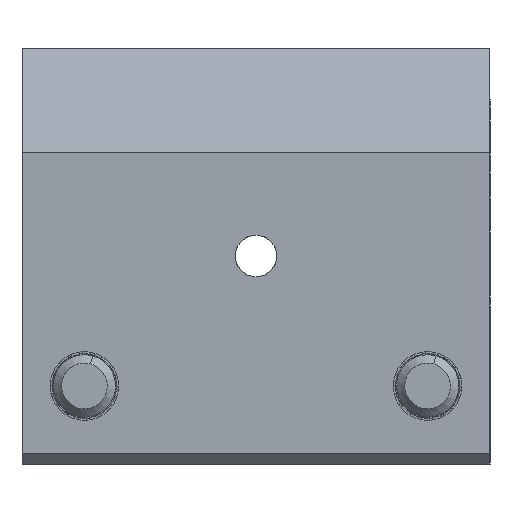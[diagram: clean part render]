
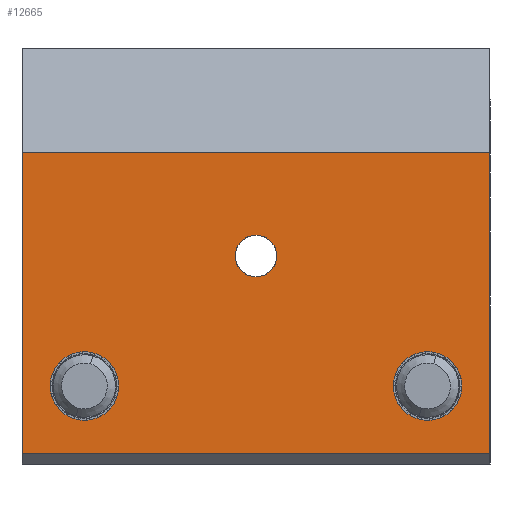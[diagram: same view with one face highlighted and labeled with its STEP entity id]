
A CAD part, front view. The second image highlights one B-rep face of the part: STEP entity #12665.
In plain terms, the highlighted planar face has unit normal (0, -1, 0).
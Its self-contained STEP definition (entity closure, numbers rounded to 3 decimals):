
#68 = LINE ( 'NONE', #18251, #2326 ) ;
#132 = ORIENTED_EDGE ( 'NONE', *, *, #7039, .F. ) ;
#175 = ORIENTED_EDGE ( 'NONE', *, *, #17930, .F. ) ;
#351 = ORIENTED_EDGE ( 'NONE', *, *, #6805, .F. ) ;
#371 = DIRECTION ( 'NONE',  ( 0., 0., 1. ) ) ;
#676 = CARTESIAN_POINT ( 'NONE',  ( -19.76, 9.692, -9.2 ) ) ;
#947 = CARTESIAN_POINT ( 'NONE',  ( -25.76, 9.692, -19. ) ) ;
#1083 = ORIENTED_EDGE ( 'NONE', *, *, #17022, .F. ) ;
#1120 = DIRECTION ( 'NONE',  ( 0., 0., 1. ) ) ;
#1361 = VERTEX_POINT ( 'NONE', #947 ) ;
#1429 = DIRECTION ( 'NONE',  ( 1., 0., 0. ) ) ;
#1744 = DIRECTION ( 'NONE',  ( 0., -1., 0. ) ) ;
#1943 = FACE_OUTER_BOUND ( 'NONE', #7101, .T. ) ;
#1950 = VERTEX_POINT ( 'NONE', #5908 ) ;
#2002 = CIRCLE ( 'NONE', #13093, 3.3 ) ;
#2074 = CARTESIAN_POINT ( 'NONE',  ( 13.24, 9.692, -12.5 ) ) ;
#2326 = VECTOR ( 'NONE', #16668, 1000. ) ;
#2372 = VERTEX_POINT ( 'NONE', #17289 ) ;
#2743 = VERTEX_POINT ( 'NONE', #8573 ) ;
#3083 = CIRCLE ( 'NONE', #15375, 3.3 ) ;
#3700 = VERTEX_POINT ( 'NONE', #8285 ) ;
#3835 = DIRECTION ( 'NONE',  ( 0., -1., 0. ) ) ;
#4672 = VERTEX_POINT ( 'NONE', #10824 ) ;
#4701 = VERTEX_POINT ( 'NONE', #676 ) ;
#5226 = CIRCLE ( 'NONE', #17150, 2. ) ;
#5227 = DIRECTION ( 'NONE',  ( 0., 0., 1. ) ) ;
#5549 = AXIS2_PLACEMENT_3D ( 'NONE', #10135, #15852, #7283 ) ;
#5908 = CARTESIAN_POINT ( 'NONE',  ( -3.26, 9.692, -2. ) ) ;
#6065 = VECTOR ( 'NONE', #18105, 1000. ) ;
#6076 = CARTESIAN_POINT ( 'NONE',  ( 13.24, 9.692, -12.5 ) ) ;
#6501 = DIRECTION ( 'NONE',  ( 0., -1., 0. ) ) ;
#6805 = EDGE_CURVE ( 'NONE', #16207, #3700, #68, .T. ) ;
#6945 = EDGE_CURVE ( 'NONE', #4672, #1950, #5226, .T. ) ;
#7005 = ORIENTED_EDGE ( 'NONE', *, *, #15584, .F. ) ;
#7039 = EDGE_CURVE ( 'NONE', #3700, #1361, #13072, .T. ) ;
#7101 = EDGE_LOOP ( 'NONE', ( #132, #351, #10213, #9976 ) ) ;
#7283 = DIRECTION ( 'NONE',  ( 0., 0., 1. ) ) ;
#7308 = FACE_BOUND ( 'NONE', #17281, .T. ) ;
#7779 = EDGE_CURVE ( 'NONE', #17644, #1361, #9440, .T. ) ;
#8045 = CARTESIAN_POINT ( 'NONE',  ( 19.24, 9.692, 10. ) ) ;
#8281 = DIRECTION ( 'NONE',  ( 0., 0., 1. ) ) ;
#8285 = CARTESIAN_POINT ( 'NONE',  ( 19.24, 9.692, -19. ) ) ;
#8306 = AXIS2_PLACEMENT_3D ( 'NONE', #9813, #14154, #8281 ) ;
#8573 = CARTESIAN_POINT ( 'NONE',  ( 13.24, 9.692, -15.8 ) ) ;
#8608 = EDGE_LOOP ( 'NONE', ( #9776, #1083 ) ) ;
#8844 = CARTESIAN_POINT ( 'NONE',  ( -3.26, 9.692, 0. ) ) ;
#9033 = DIRECTION ( 'NONE',  ( 0., 0., 1. ) ) ;
#9403 = ORIENTED_EDGE ( 'NONE', *, *, #6945, .F. ) ;
#9440 = LINE ( 'NONE', #10830, #6065 ) ;
#9686 = PLANE ( 'NONE',  #8306 ) ;
#9776 = ORIENTED_EDGE ( 'NONE', *, *, #10781, .F. ) ;
#9813 = CARTESIAN_POINT ( 'NONE',  ( -25.76, 9.692, -19. ) ) ;
#9910 = CARTESIAN_POINT ( 'NONE',  ( -3.26, 9.692, 10. ) ) ;
#9976 = ORIENTED_EDGE ( 'NONE', *, *, #7779, .T. ) ;
#10135 = CARTESIAN_POINT ( 'NONE',  ( -3.26, 9.692, 0. ) ) ;
#10213 = ORIENTED_EDGE ( 'NONE', *, *, #11572, .F. ) ;
#10344 = AXIS2_PLACEMENT_3D ( 'NONE', #13755, #6501, #5227 ) ;
#10781 = EDGE_CURVE ( 'NONE', #2372, #2743, #2002, .T. ) ;
#10824 = CARTESIAN_POINT ( 'NONE',  ( -3.26, 9.692, 2. ) ) ;
#10830 = CARTESIAN_POINT ( 'NONE',  ( -25.76, 9.692, 0. ) ) ;
#11160 = VECTOR ( 'NONE', #1429, 1000. ) ;
#11491 = VERTEX_POINT ( 'NONE', #18243 ) ;
#11572 = EDGE_CURVE ( 'NONE', #17644, #16207, #18274, .T. ) ;
#11823 = FACE_BOUND ( 'NONE', #8608, .T. ) ;
#12128 = DIRECTION ( 'NONE',  ( 0., 0., 1. ) ) ;
#12423 = CIRCLE ( 'NONE', #5549, 2. ) ;
#12665 = ADVANCED_FACE ( 'NONE', ( #11823, #15822, #7308, #1943 ), #9686, .F. ) ;
#13072 = LINE ( 'NONE', #14515, #15297 ) ;
#13093 = AXIS2_PLACEMENT_3D ( 'NONE', #2074, #17759, #12128 ) ;
#13665 = CARTESIAN_POINT ( 'NONE',  ( -25.76, 9.692, 10. ) ) ;
#13755 = CARTESIAN_POINT ( 'NONE',  ( -19.76, 9.692, -12.5 ) ) ;
#14154 = DIRECTION ( 'NONE',  ( 0., 1., 0. ) ) ;
#14515 = CARTESIAN_POINT ( 'NONE',  ( -3.26, 9.692, -19. ) ) ;
#14628 = ORIENTED_EDGE ( 'NONE', *, *, #17312, .F. ) ;
#15297 = VECTOR ( 'NONE', #17355, 1000. ) ;
#15375 = AXIS2_PLACEMENT_3D ( 'NONE', #6076, #17479, #9033 ) ;
#15584 = EDGE_CURVE ( 'NONE', #4701, #11491, #18167, .T. ) ;
#15822 = FACE_BOUND ( 'NONE', #17040, .T. ) ;
#15852 = DIRECTION ( 'NONE',  ( 0., -1., 0. ) ) ;
#16207 = VERTEX_POINT ( 'NONE', #8045 ) ;
#16265 = CIRCLE ( 'NONE', #17499, 3.3 ) ;
#16668 = DIRECTION ( 'NONE',  ( 0., 0., -1. ) ) ;
#17022 = EDGE_CURVE ( 'NONE', #2743, #2372, #3083, .T. ) ;
#17040 = EDGE_LOOP ( 'NONE', ( #7005, #14628 ) ) ;
#17150 = AXIS2_PLACEMENT_3D ( 'NONE', #8844, #1744, #371 ) ;
#17281 = EDGE_LOOP ( 'NONE', ( #9403, #175 ) ) ;
#17289 = CARTESIAN_POINT ( 'NONE',  ( 13.24, 9.692, -9.2 ) ) ;
#17312 = EDGE_CURVE ( 'NONE', #11491, #4701, #16265, .T. ) ;
#17355 = DIRECTION ( 'NONE',  ( -1., 0., 0. ) ) ;
#17479 = DIRECTION ( 'NONE',  ( 0., -1., 0. ) ) ;
#17499 = AXIS2_PLACEMENT_3D ( 'NONE', #18418, #3835, #1120 ) ;
#17644 = VERTEX_POINT ( 'NONE', #13665 ) ;
#17759 = DIRECTION ( 'NONE',  ( 0., -1., 0. ) ) ;
#17930 = EDGE_CURVE ( 'NONE', #1950, #4672, #12423, .T. ) ;
#18105 = DIRECTION ( 'NONE',  ( 0., 0., -1. ) ) ;
#18167 = CIRCLE ( 'NONE', #10344, 3.3 ) ;
#18243 = CARTESIAN_POINT ( 'NONE',  ( -19.76, 9.692, -15.8 ) ) ;
#18251 = CARTESIAN_POINT ( 'NONE',  ( 19.24, 9.692, -4.5 ) ) ;
#18274 = LINE ( 'NONE', #9910, #11160 ) ;
#18418 = CARTESIAN_POINT ( 'NONE',  ( -19.76, 9.692, -12.5 ) ) ;
